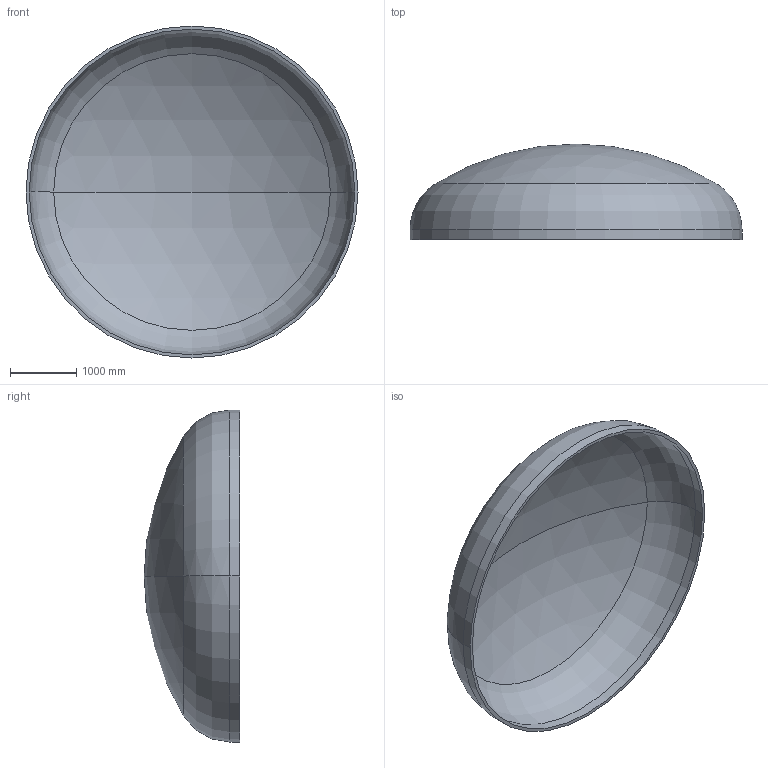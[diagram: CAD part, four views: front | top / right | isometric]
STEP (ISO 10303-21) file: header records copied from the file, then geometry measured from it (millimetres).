
FILE_DESCRIPTION (( 'STEP AP203' ), '1' );
FILE_NAME ('DIN 28013 Korbbogenform_-_Boden DIN 28013 - 5000 x 150 - I - s=48.step', '2016-07-02T00:33:57', ( '' ), ( '' ), 'SwSTEP 2.0', 'SolidWorks 2013', '' );
FILE_SCHEMA (( 'CONFIG_CONTROL_DESIGN' ));
Length unit declared in the file: millimetre
Products named in the file (1): DIN 28013 Korbbogenform_-_Boden DIN 28013 - 5000 x 150 - I - s=48
Bounding box: 5000 x 1440.51 x 5000 mm (x, y, z)
Volume: 1400863516.5 mm3; surface area: 59120861.1 mm2
Topology: 1 solids, 1 shells, 13 faces, 24 edges, 14 vertices
Faces by surface type: torus 4, cylinder 4, sphere 4, plane 1
Entity records: 407 total; most frequent: DIRECTION 72, CARTESIAN_POINT 52, ORIENTED_EDGE 48, AXIS2_PLACEMENT_3D 34, EDGE_CURVE 24, CIRCLE 20, VERTEX_POINT 14, EDGE_LOOP 14
